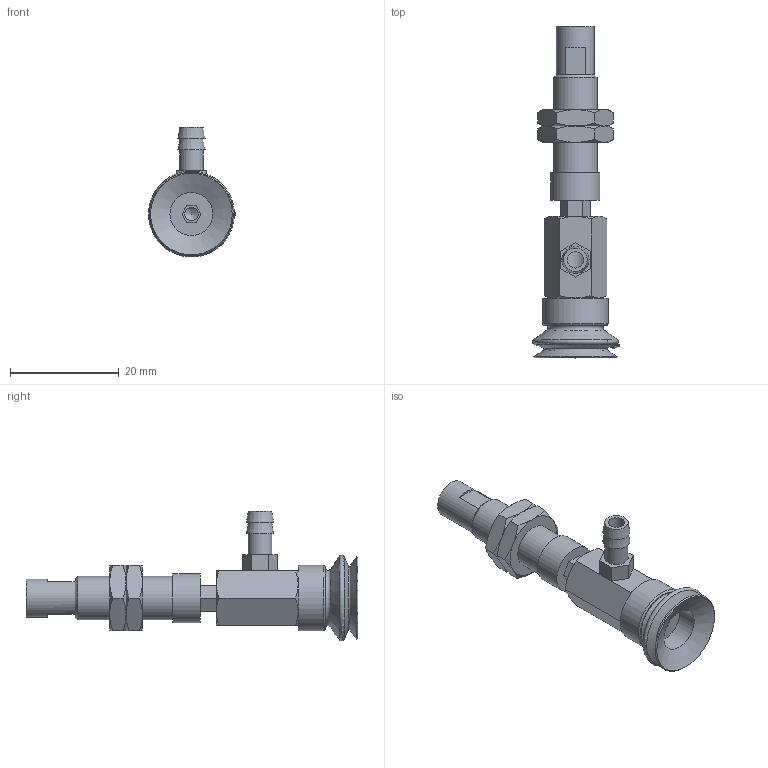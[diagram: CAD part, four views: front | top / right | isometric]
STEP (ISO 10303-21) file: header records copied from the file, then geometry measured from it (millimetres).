
FILE_DESCRIPTION(('STEP AP203'),'1');
FILE_NAME('-T.stp','2025-04-24T06:39:32',(' '),(' '),'Spatial InterOp 3D',' ',' ');
FILE_SCHEMA(('CONFIG_CONTROL_DESIGN'));
Length unit declared in the file: millimetre
Products named in the file (8): BNABPJYH-15-3-※-T; Adapter-15-NAPJ; CONNECTOR_H-15-3; NAPJH-15-3-NUT; NAPJTH-15-3-FBODY; NAPJTH-15-3-MBODY; BPJG-15-※; T
Assembly tree (8 placements, depth 2):
  BNABPJYH-15-3-※-T
    Adapter-15-NAPJ
    CONNECTOR_H-15-3
    NAPJH-15-3-NUT  x2
    NAPJTH-15-3-FBODY
    NAPJTH-15-3-MBODY
    BPJG-15-※
    T
Bounding box: 15.99 x 61 x 23.89 mm (x, y, z)
Volume: 4445.8 mm3; surface area: 5208.3 mm2
Topology: 8 solids, 8 shells, 182 faces, 397 edges, 241 vertices
Faces by surface type: plane 84, cone 61, cylinder 18, torus 9, bspline 6, sphere 4
Full cylindrical faces by diameter (mm): 2.5 x1, 3 x1, 4.134 x3, 4.3 x1, 4.6 x1, 5 x3, 7 x1, 7.188 x2, 7.9 x1, 8 x2, 9 x1, 12 x1
Entity records: 4880 total; most frequent: CARTESIAN_POINT 1266, DIRECTION 670, ORIENTED_EDGE 588, EDGE_CURVE 294, AXIS2_PLACEMENT_3D 274, EDGE_LOOP 225, VERTEX_POINT 204, FACE_OUTER_BOUND 183
